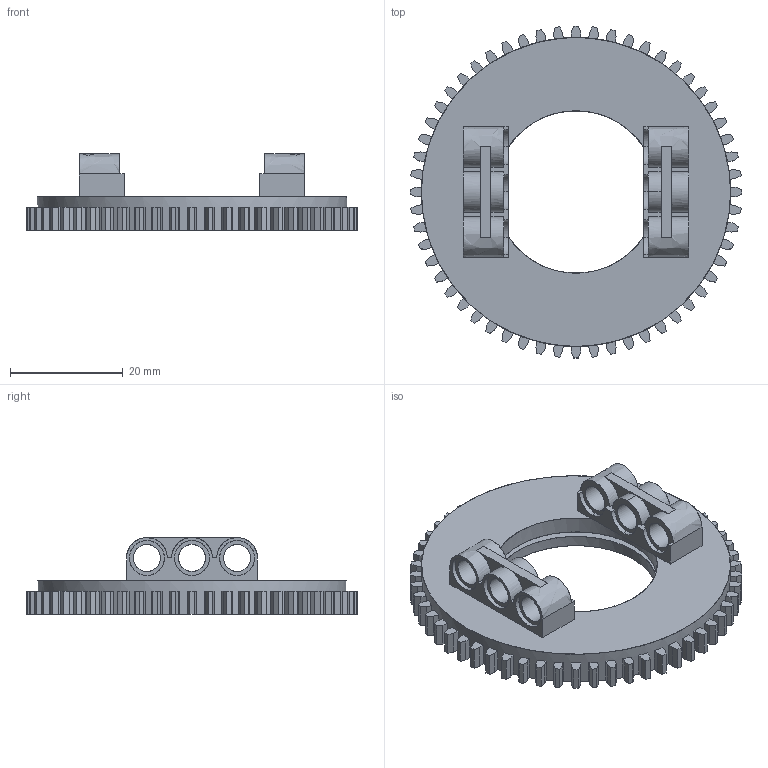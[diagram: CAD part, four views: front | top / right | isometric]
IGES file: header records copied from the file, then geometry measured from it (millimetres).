
Start section: C
Global section: file name: Black_4624645_b)_JCA.iges; native system: By Siemens PLM Incorporated; preprocessor: XPlus GENERIC/IGES 26.1.183; author: Author; organization: Title; date: 20250721.234824; units: millimetre
Bounding box: 58.85 x 58.85 x 13.6 mm (x, y, z)
Surface area: 8035.5 mm2 (no closed solid volume)
Topology: 0 solids, 0 shells, 421 faces, 2500 edges, 2500 vertices
Faces by surface type: bspline 421
